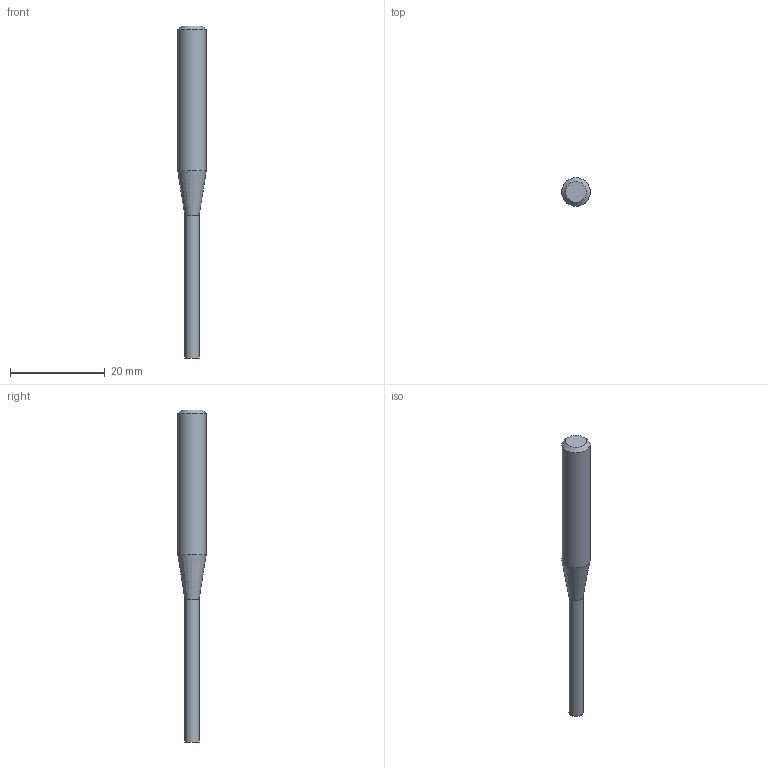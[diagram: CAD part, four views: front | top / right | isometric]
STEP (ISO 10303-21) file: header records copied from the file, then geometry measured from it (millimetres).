
FILE_DESCRIPTION((''),'2;1');
FILE_NAME('C:\Users\nsx150\Desktop\RSE230_20210427\01-00644-03006 RSE230 D3X30.step','2021-05-07T14:53:56',(''),(''),'STEP Write','Mastercam 2021 ... CNC Software, Inc.','');
FILE_SCHEMA(('AUTOMOTIVE_DESIGN'));
Length unit declared in the file: millimetre
Products named in the file (1): None
Bounding box: 6 x 6 x 70 mm (x, y, z)
Volume: 1226 mm3; surface area: 1033.6 mm2
Topology: 2 solids, 2 shells, 8 faces, 10 edges, 6 vertices
Faces by surface type: plane 4, cylinder 2, cone 2
Full cylindrical faces by diameter (mm): 3 x1, 6 x1
Entity records: 190 total; most frequent: DIRECTION 32, CARTESIAN_POINT 22, AXIS2_PLACEMENT_3D 16, ORIENTED_EDGE 12, EDGE_LOOP 12, STYLED_ITEM 11, ADVANCED_FACE 8, VERTEX_POINT 6
